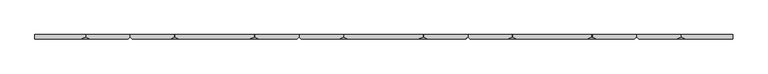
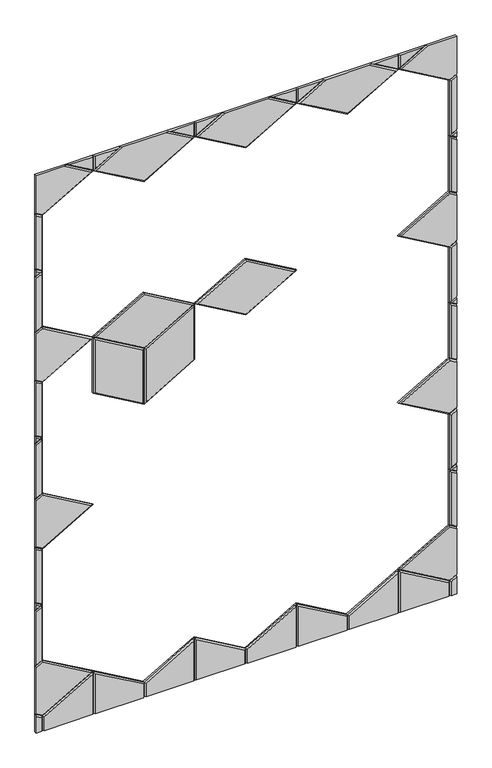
"""IFC4 building model written with IfcOpenShell, lengths in millimetres: proxy geometry, Wall_Cissu 4.3dm."""

from ifc_helpers import new_model, si_unit, origin, place, context, project, spatial, faceted_brep, source, transform, mapped, element, save


def generic_models_ec62adf8(model_context):
    return source(origin(), model_context, "Body", "Brep", [
        faceted_brep([(2254.0, 6.0, 0.0), (2254.0, 6.0, 90.1000923), (2285.1272458, 6.0, 72.1287686), (2285.1272458, 6.0, 0.0), (2254.0, 0.0, 90.1000923), (2285.1272458, 0.0, 72.1287686), (2254.0, -6.0, 83.1718891), (2279.1272458, -6.0, 68.664667), (2254.0, -6.0, 0.0), (2285.1272458, 0.0, 0.0), (2279.1272458, -6.0, 0.0)], [[[0, 1, 2, 3]], [[4, 5, 2, 1]], [[6, 7, 5, 4]], [[0, 8, 6, 4, 1]], [[9, 3, 2, 5]], [[8, 10, 7, 6]], [[10, 9, 5, 7]], [[8, 0, 3, 9, 10]]]),
        faceted_brep([(4254.0, 6.0, 0.0), (4220.8672284, 6.0, 0.0), (4220.8672284, 6.0, 72.1287686), (4254.0, 6.0, 91.2579832), (4254.0, 0.0, 91.2579832), (4220.8672284, 0.0, 72.1287686), (4254.0, -6.0, 84.32978), (4226.8672284, -6.0, 68.664667), (4254.0, -6.0, 0.0), (4226.8672284, -6.0, 0.0), (4220.8672284, 0.0, 0.0)], [[[0, 1, 2, 3]], [[4, 3, 2, 5]], [[6, 4, 5, 7]], [[8, 9, 10, 1, 0]], [[10, 5, 2, 1]], [[8, 6, 7, 9]], [[9, 7, 5, 10]], [[0, 3, 4, 6, 8]]]),
        faceted_brep([(2527.0947436, 0.0, 211.8287686), (2769.0622415, 0.0, 72.1287686), (2769.0622415, 6.0, 72.1287686), (2527.0947436, 6.0, 211.8287686), (2533.0947436, -6.0, 201.4364637), (2763.0622415, -6.0, 68.664667), (2527.0947436, 6.0, 0.0), (2769.0622415, 6.0, 0.0), (2769.0622415, 0.0, 0.0), (2527.0947436, 0.0, 0.0), (2533.0947436, -6.0, 0.0), (2763.0622415, -6.0, 0.0)], [[[0, 1, 2, 3]], [[0, 4, 5, 1]], [[6, 3, 2, 7]], [[8, 7, 2, 1]], [[6, 9, 0, 3]], [[10, 11, 5, 4]], [[11, 8, 1, 5]], [[9, 10, 4, 0]], [[6, 7, 8, 11, 10, 9]]]),
        faceted_brep([(2527.0947436, 0.0, 211.8287686), (2527.0947436, 6.0, 211.8287686), (2285.1272458, 6.0, 72.1287686), (2285.1272458, 0.0, 72.1287686), (2291.1272458, -6.0, 68.664667), (2521.0947436, -6.0, 201.4364637), (2527.0947436, 6.0, 0.0), (2285.1272458, 6.0, 0.0), (2285.1272458, 0.0, 0.0), (2527.0947436, 0.0, 0.0), (2521.0947436, -6.0, 0.0), (2291.1272458, -6.0, 0.0)], [[[0, 1, 2, 3]], [[0, 3, 4, 5]], [[6, 7, 2, 1]], [[8, 3, 2, 7]], [[6, 1, 0, 9]], [[10, 5, 4, 11]], [[11, 4, 3, 8]], [[9, 0, 5, 10]], [[6, 9, 10, 11, 8, 7]]]),
        faceted_brep([(3011.0297393, 0.0, 211.8287686), (3011.0297393, 6.0, 211.8287686), (2769.0622415, 6.0, 72.1287686), (2769.0622415, 0.0, 72.1287686), (2775.0622415, -6.0, 68.664667), (3005.0297393, -6.0, 201.4364637), (3011.0297393, 6.0, 0.0), (2769.0622415, 6.0, 0.0), (2769.0622415, 0.0, 0.0), (3011.0297393, 0.0, 0.0), (3005.0297393, -6.0, 0.0), (2775.0622415, -6.0, 0.0)], [[[0, 1, 2, 3]], [[0, 3, 4, 5]], [[6, 7, 2, 1]], [[8, 3, 2, 7]], [[6, 1, 0, 9]], [[10, 5, 4, 11]], [[11, 4, 3, 8]], [[9, 0, 5, 10]], [[6, 9, 10, 11, 8, 7]]]),
        faceted_brep([(3011.0297393, 0.0, 211.8287686), (3252.9972371, 0.0, 72.1287686), (3252.9972371, 6.0, 72.1287686), (3011.0297393, 6.0, 211.8287686), (3017.0297393, -6.0, 201.4364637), (3246.9972371, -6.0, 68.664667), (3011.0297393, 6.0, 0.0), (3252.9972371, 6.0, 0.0), (3252.9972371, 0.0, 0.0), (3011.0297393, 0.0, 0.0), (3017.0297393, -6.0, 0.0), (3246.9972371, -6.0, 0.0)], [[[0, 1, 2, 3]], [[0, 4, 5, 1]], [[6, 3, 2, 7]], [[8, 7, 2, 1]], [[6, 9, 0, 3]], [[10, 11, 5, 4]], [[11, 8, 1, 5]], [[9, 10, 4, 0]], [[6, 7, 8, 11, 10, 9]]]),
        faceted_brep([(3978.8997305, 0.0, 211.8287686), (3978.8997305, 6.0, 211.8287686), (3736.9322327, 6.0, 72.1287686), (3736.9322327, 0.0, 72.1287686), (3742.9322327, -6.0, 68.664667), (3972.8997305, -6.0, 201.4364637), (3978.8997305, 6.0, 0.0), (3736.9322327, 6.0, 0.0), (3736.9322327, 0.0, 0.0), (3978.8997305, 0.0, 0.0), (3972.8997305, -6.0, 0.0), (3742.9322327, -6.0, 0.0)], [[[0, 1, 2, 3]], [[0, 3, 4, 5]], [[6, 7, 2, 1]], [[8, 3, 2, 7]], [[6, 1, 0, 9]], [[10, 5, 4, 11]], [[11, 4, 3, 8]], [[9, 0, 5, 10]], [[6, 9, 10, 11, 8, 7]]]),
        faceted_brep([(3978.8997305, 0.0, 211.8287686), (4220.8672284, 0.0, 72.1287686), (4220.8672284, 6.0, 72.1287686), (3978.8997305, 6.0, 211.8287686), (3984.8997305, -6.0, 201.4364637), (4214.8672284, -6.0, 68.664667), (3978.8997305, 6.0, 0.0), (4220.8672284, 6.0, 0.0), (4220.8672284, 0.0, 0.0), (3978.8997305, 0.0, 0.0), (3984.8997305, -6.0, 0.0), (4214.8672284, -6.0, 0.0)], [[[0, 1, 2, 3]], [[0, 4, 5, 1]], [[6, 3, 2, 7]], [[8, 7, 2, 1]], [[6, 9, 0, 3]], [[10, 11, 5, 4]], [[11, 8, 1, 5]], [[9, 10, 4, 0]], [[6, 7, 8, 11, 10, 9]]]),
        faceted_brep([(3494.9647349, 0.0, 211.8287686), (3736.9322327, 0.0, 72.1287686), (3736.9322327, 6.0, 72.1287686), (3494.9647349, 6.0, 211.8287686), (3500.9647349, -6.0, 201.4364637), (3730.9322327, -6.0, 68.664667), (3494.9647349, 6.0, 0.0), (3736.9322327, 6.0, 0.0), (3736.9322327, 0.0, 0.0), (3494.9647349, 0.0, 0.0), (3500.9647349, -6.0, 0.0), (3730.9322327, -6.0, 0.0)], [[[0, 1, 2, 3]], [[0, 4, 5, 1]], [[6, 3, 2, 7]], [[8, 7, 2, 1]], [[6, 9, 0, 3]], [[10, 11, 5, 4]], [[11, 8, 1, 5]], [[9, 10, 4, 0]], [[6, 7, 8, 11, 10, 9]]]),
        faceted_brep([(3494.9647349, 0.0, 211.8287686), (3494.9647349, 6.0, 211.8287686), (3252.9972371, 6.0, 72.1287686), (3252.9972371, 0.0, 72.1287686), (3258.9972371, -6.0, 68.664667), (3488.9647349, -6.0, 201.4364637), (3494.9647349, 6.0, 0.0), (3252.9972371, 6.0, 0.0), (3252.9972371, 0.0, 0.0), (3494.9647349, 0.0, 0.0), (3488.9647349, -6.0, 0.0), (3258.9972371, -6.0, 0.0)], [[[0, 1, 2, 3]], [[0, 3, 4, 5]], [[6, 7, 2, 1]], [[8, 3, 2, 7]], [[6, 1, 0, 9]], [[10, 5, 4, 11]], [[11, 4, 3, 8]], [[9, 0, 5, 10]], [[6, 9, 10, 11, 8, 7]]]),
        faceted_brep([(4254.0, 6.0, 332.3995539), (4254.0, 6.0, 91.2579832), (4220.8672284, 6.0, 72.1287686), (3978.8997305, 6.0, 211.8287686), (4220.8672284, 6.0, 351.5287686), (4220.8672284, 0.0, 72.1287686), (3978.8997305, 0.0, 211.8287686), (4220.8672284, 0.0, 351.5287686), (4254.0, 0.0, 332.3995539), (4254.0, 0.0, 91.2579832), (4254.0, -6.0, 325.4713507), (4220.8672284, -6.0, 344.6005653), (3990.8997305, -6.0, 211.8287686), (4220.8672284, -6.0, 79.0569718), (4254.0, -6.0, 98.1861864)], [[[0, 1, 2, 3, 4]], [[5, 6, 3, 2]], [[6, 7, 4, 3]], [[0, 4, 7, 8]], [[9, 5, 2, 1]], [[10, 11, 12, 13, 14]], [[5, 13, 12, 6]], [[6, 12, 11, 7]], [[8, 7, 11, 10]], [[14, 13, 5, 9]], [[0, 8, 10, 14, 9, 1]]]),
        faceted_brep([(4254.0, 6.0, 611.7995539), (4254.0, 6.0, 332.3995539), (4220.8672284, 6.0, 351.5287686), (4220.8672284, 6.0, 630.9287686), (4254.0, 0.0, 332.3995539), (4220.8672284, 0.0, 351.5287686), (4220.8672284, 0.0, 630.9287686), (4254.0, 0.0, 611.7995539), (4254.0, -6.0, 604.8713507), (4226.8672284, -6.0, 620.5364637), (4226.8672284, -6.0, 354.9928702), (4254.0, -6.0, 339.3277572)], [[[0, 1, 2, 3]], [[4, 5, 2, 1]], [[5, 6, 3, 2]], [[0, 3, 6, 7]], [[8, 9, 10, 11]], [[11, 10, 5, 4]], [[5, 10, 9, 6]], [[7, 6, 9, 8]], [[0, 7, 8, 11, 4, 1]]]),
        faceted_brep([(2254.0, 6.0, 90.1000923), (2254.0, 6.0, 333.5574448), (2285.1272458, 6.0, 351.5287686), (2527.0947436, 6.0, 211.8287686), (2285.1272458, 6.0, 72.1287686), (2285.1272458, 0.0, 72.1287686), (2254.0, 0.0, 90.1000923), (2254.0, 0.0, 333.5574448), (2285.1272458, 0.0, 351.5287686), (2527.0947436, 0.0, 211.8287686), (2254.0, -6.0, 97.0282956), (2285.1272458, -6.0, 79.0569718), (2515.0947436, -6.0, 211.8287686), (2285.1272458, -6.0, 344.6005653), (2254.0, -6.0, 326.6292416)], [[[0, 1, 2, 3, 4]], [[0, 4, 5, 6]], [[7, 8, 2, 1]], [[8, 9, 3, 2]], [[9, 5, 4, 3]], [[10, 11, 12, 13, 14]], [[6, 5, 11, 10]], [[14, 13, 8, 7]], [[8, 13, 12, 9]], [[9, 12, 11, 5]], [[0, 6, 10, 14, 7, 1]]]),
        faceted_brep([(2254.0, 6.0, 612.9574448), (2285.1272458, 6.0, 630.9287686), (2285.1272458, 6.0, 351.5287686), (2254.0, 6.0, 333.5574448), (2254.0, 0.0, 333.5574448), (2285.1272458, 0.0, 351.5287686), (2285.1272458, 0.0, 630.9287686), (2254.0, 0.0, 612.9574448), (2254.0, -6.0, 606.0292416), (2254.0, -6.0, 340.485648), (2279.1272458, -6.0, 354.9928702), (2279.1272458, -6.0, 620.5364637)], [[[0, 1, 2, 3]], [[4, 3, 2, 5]], [[5, 2, 1, 6]], [[0, 7, 6, 1]], [[8, 9, 10, 11]], [[9, 4, 5, 10]], [[5, 6, 11, 10]], [[7, 8, 11, 6]], [[0, 3, 4, 9, 8, 7]]]),
        faceted_brep([(2254.0, 6.037064, 612.914647), (2254.0, 6.037064, 648.8144967), (2285.0901818, 6.037064, 630.8645718), (2254.0, 0.037064, 648.8144967), (2285.0901818, 0.037064, 630.8645718), (2254.0, 0.037064, 612.914647), (2254.0, -5.962936, 619.8428502), (2273.0901818, -5.962936, 630.8645718), (2254.0, -5.962936, 641.8862934)], [[[0, 1, 2]], [[3, 4, 2, 1]], [[0, 2, 4, 5]], [[6, 7, 8]], [[8, 7, 4, 3]], [[5, 4, 7, 6]], [[0, 5, 6, 8, 3, 1]]]),
        faceted_brep([(2254.0, 6.037064, 648.8144967), (2254.0, 6.037064, 928.2144967), (2285.0901818, 6.037064, 910.2645718), (2285.0901818, 6.037064, 630.8645718), (2285.0901818, 0.037064, 910.2645718), (2285.0901818, 0.037064, 630.8645718), (2254.0, 0.037064, 648.8144967), (2254.0, 0.037064, 928.2144967), (2254.0, -5.962936, 655.7426999), (2279.0901818, -5.962936, 641.2568767), (2279.0901818, -5.962936, 906.8004702), (2254.0, -5.962936, 921.2862934)], [[[0, 1, 2, 3]], [[4, 5, 3, 2]], [[0, 3, 5, 6]], [[7, 4, 2, 1]], [[8, 9, 10, 11]], [[4, 10, 9, 5]], [[6, 5, 9, 8]], [[11, 10, 4, 7]], [[0, 6, 8, 11, 7, 1]]]),
        faceted_brep([(4254.0, 6.037064, 611.7139583), (4220.8301644, 6.037064, 630.8645718), (4254.0, 6.037064, 650.0151854), (4254.0, 0.037064, 650.0151854), (4220.8301644, 0.037064, 630.8645718), (4254.0, 0.037064, 611.7139583), (4254.0, -5.962936, 618.6421615), (4254.0, -5.962936, 643.0869821), (4232.8301644, -5.962936, 630.8645718)], [[[0, 1, 2]], [[3, 2, 1, 4]], [[0, 5, 4, 1]], [[6, 7, 8]], [[7, 3, 4, 8]], [[5, 6, 8, 4]], [[0, 2, 3, 7, 6, 5]]]),
        faceted_brep([(4254.0, 6.037064, 650.0151854), (4220.8301644, 6.037064, 630.8645718), (4220.8301644, 6.037064, 910.2645718), (4254.0, 6.037064, 929.4151854), (4220.8301644, 0.037064, 910.2645718), (4220.8301644, 0.037064, 630.8645718), (4254.0, 0.037064, 650.0151854), (4254.0, 0.037064, 929.4151854), (4254.0, -5.962936, 656.9433886), (4254.0, -5.962936, 922.4869821), (4226.8301644, -5.962936, 906.8004702), (4226.8301644, -5.962936, 641.2568767)], [[[0, 1, 2, 3]], [[4, 2, 1, 5]], [[0, 6, 5, 1]], [[7, 3, 2, 4]], [[8, 9, 10, 11]], [[4, 5, 11, 10]], [[6, 8, 11, 5]], [[9, 7, 4, 10]], [[0, 3, 7, 9, 8, 6]]]),
        faceted_brep([(4254.0, 6.037064, 1170.5139583), (4254.0, 6.037064, 929.4151854), (4220.8301644, 6.037064, 910.2645718), (3978.8626665, 6.037064, 1049.9645718), (4220.8301644, 6.037064, 1189.6645718), (4220.8301644, 0.037064, 910.2645718), (3978.8626665, 0.037064, 1049.9645718), (4220.8301644, 0.037064, 1189.6645718), (4254.0, 0.037064, 1170.5139583), (4254.0, 0.037064, 929.4151854), (4254.0, -5.962936, 1163.5857551), (4220.8301644, -5.962936, 1182.7363686), (3990.8626665, -5.962936, 1049.9645718), (4220.8301644, -5.962936, 917.1927751), (4254.0, -5.962936, 936.3433886)], [[[0, 1, 2, 3, 4]], [[5, 6, 3, 2]], [[6, 7, 4, 3]], [[0, 4, 7, 8]], [[9, 5, 2, 1]], [[10, 11, 12, 13, 14]], [[5, 13, 12, 6]], [[6, 12, 11, 7]], [[8, 7, 11, 10]], [[14, 13, 5, 9]], [[0, 8, 10, 14, 9, 1]]]),
        faceted_brep([(4254.0, 6.037064, 1449.9139583), (4254.0, 6.037064, 1170.5139583), (4220.8301644, 6.037064, 1189.6645718), (4220.8301644, 6.037064, 1469.0645718), (4254.0, 0.037064, 1170.5139583), (4220.8301644, 0.037064, 1189.6645718), (4220.8301644, 0.037064, 1469.0645718), (4254.0, 0.037064, 1449.9139583), (4254.0, -5.962936, 1442.9857551), (4226.8301644, -5.962936, 1458.672267), (4226.8301644, -5.962936, 1193.1286734), (4254.0, -5.962936, 1177.4421615)], [[[0, 1, 2, 3]], [[4, 5, 2, 1]], [[5, 6, 3, 2]], [[0, 3, 6, 7]], [[8, 9, 10, 11]], [[11, 10, 5, 4]], [[5, 10, 9, 6]], [[7, 6, 9, 8]], [[0, 7, 8, 11, 4, 1]]]),
        faceted_brep([(2254.0, 6.037064, 928.2144967), (2254.0, 6.037064, 1171.714647), (2285.0901818, 6.037064, 1189.6645718), (2527.0576796, 6.037064, 1049.9645718), (2285.0901818, 6.037064, 910.2645718), (2285.0901818, 0.037064, 910.2645718), (2254.0, 0.037064, 928.2144967), (2254.0, 0.037064, 1171.714647), (2285.0901818, 0.037064, 1189.6645718), (2527.0576796, 0.037064, 1049.9645718), (2254.0, -5.962936, 935.1426999), (2285.0901818, -5.962936, 917.1927751), (2515.0576796, -5.962936, 1049.9645718), (2285.0901818, -5.962936, 1182.7363686), (2254.0, -5.962936, 1164.7864438)], [[[0, 1, 2, 3, 4]], [[0, 4, 5, 6]], [[7, 8, 2, 1]], [[8, 9, 3, 2]], [[9, 5, 4, 3]], [[10, 11, 12, 13, 14]], [[6, 5, 11, 10]], [[14, 13, 8, 7]], [[8, 13, 12, 9]], [[9, 12, 11, 5]], [[0, 6, 10, 14, 7, 1]]]),
        faceted_brep([(2254.0, 6.037064, 1451.114647), (2285.0901818, 6.037064, 1469.0645718), (2285.0901818, 6.037064, 1189.6645718), (2254.0, 6.037064, 1171.714647), (2254.0, 0.037064, 1171.714647), (2285.0901818, 0.037064, 1189.6645718), (2285.0901818, 0.037064, 1469.0645718), (2254.0, 0.037064, 1451.114647), (2254.0, -5.962936, 1444.1864438), (2254.0, -5.962936, 1178.6428502), (2279.0901818, -5.962936, 1193.1286734), (2279.0901818, -5.962936, 1458.672267)], [[[0, 1, 2, 3]], [[4, 3, 2, 5]], [[5, 2, 1, 6]], [[0, 7, 6, 1]], [[8, 9, 10, 11]], [[9, 4, 5, 10]], [[5, 6, 11, 10]], [[7, 8, 11, 6]], [[0, 3, 4, 9, 8, 7]]]),
        faceted_brep([(2254.0, 6.037064, 1451.114647), (2254.0, 6.037064, 1487.0144967), (2285.0901818, 6.037064, 1469.0645718), (2254.0, 0.037064, 1487.0144967), (2285.0901818, 0.037064, 1469.0645718), (2254.0, 0.037064, 1451.114647), (2254.0, -5.962936, 1458.0428502), (2273.0901818, -5.962936, 1469.0645718), (2254.0, -5.962936, 1480.0862934)], [[[0, 1, 2]], [[3, 4, 2, 1]], [[0, 2, 4, 5]], [[6, 7, 8]], [[8, 7, 4, 3]], [[5, 4, 7, 6]], [[0, 5, 6, 8, 3, 1]]]),
        faceted_brep([(2254.0, 6.037064, 1487.0144967), (2254.0, 6.037064, 1766.4144967), (2285.0901818, 6.037064, 1748.4645718), (2285.0901818, 6.037064, 1469.0645718), (2285.0901818, 0.037064, 1748.4645718), (2285.0901818, 0.037064, 1469.0645718), (2254.0, 0.037064, 1487.0144967), (2254.0, 0.037064, 1766.4144967), (2254.0, -5.962936, 1493.9426999), (2279.0901818, -5.962936, 1479.4568767), (2279.0901818, -5.962936, 1745.0004702), (2254.0, -5.962936, 1759.4862934)], [[[0, 1, 2, 3]], [[4, 5, 3, 2]], [[0, 3, 5, 6]], [[7, 4, 2, 1]], [[8, 9, 10, 11]], [[4, 10, 9, 5]], [[6, 5, 9, 8]], [[11, 10, 4, 7]], [[0, 6, 8, 11, 7, 1]]]),
        faceted_brep([(4254.0, 6.037064, 1449.9139583), (4220.8301644, 6.037064, 1469.0645718), (4254.0, 6.037064, 1488.2151854), (4254.0, 0.037064, 1488.2151854), (4220.8301644, 0.037064, 1469.0645718), (4254.0, 0.037064, 1449.9139583), (4254.0, -5.962936, 1456.8421615), (4254.0, -5.962936, 1481.2869821), (4232.8301644, -5.962936, 1469.0645718)], [[[0, 1, 2]], [[3, 2, 1, 4]], [[0, 5, 4, 1]], [[6, 7, 8]], [[7, 3, 4, 8]], [[5, 6, 8, 4]], [[0, 2, 3, 7, 6, 5]]]),
        faceted_brep([(4254.0, 6.037064, 1488.2151854), (4220.8301644, 6.037064, 1469.0645718), (4220.8301644, 6.037064, 1748.4645718), (4254.0, 6.037064, 1767.6151854), (4220.8301644, 0.037064, 1748.4645718), (4220.8301644, 0.037064, 1469.0645718), (4254.0, 0.037064, 1488.2151854), (4254.0, 0.037064, 1767.6151854), (4254.0, -5.962936, 1495.1433886), (4254.0, -5.962936, 1760.6869821), (4226.8301644, -5.962936, 1745.0004702), (4226.8301644, -5.962936, 1479.4568767)], [[[0, 1, 2, 3]], [[4, 2, 1, 5]], [[0, 6, 5, 1]], [[7, 3, 2, 4]], [[8, 9, 10, 11]], [[4, 5, 11, 10]], [[6, 8, 11, 5]], [[9, 7, 4, 10]], [[0, 3, 7, 9, 8, 6]]]),
        faceted_brep([(4254.0, 6.037064, 2008.7139583), (4254.0, 6.037064, 1767.6151854), (4220.8301644, 6.037064, 1748.4645718), (3978.8626665, 6.037064, 1888.1645718), (4220.8301644, 6.037064, 2027.8645718), (4220.8301644, 0.037064, 1748.4645718), (3978.8626665, 0.037064, 1888.1645718), (4220.8301644, 0.037064, 2027.8645718), (4254.0, 0.037064, 2008.7139583), (4254.0, 0.037064, 1767.6151854), (4254.0, -5.962936, 2001.7857551), (4220.8301644, -5.962936, 2020.9363686), (3990.8626665, -5.962936, 1888.1645718), (4220.8301644, -5.962936, 1755.3927751), (4254.0, -5.962936, 1774.5433886)], [[[0, 1, 2, 3, 4]], [[5, 6, 3, 2]], [[6, 7, 4, 3]], [[0, 4, 7, 8]], [[9, 5, 2, 1]], [[10, 11, 12, 13, 14]], [[5, 13, 12, 6]], [[6, 12, 11, 7]], [[8, 7, 11, 10]], [[14, 13, 5, 9]], [[0, 8, 10, 14, 9, 1]]]),
        faceted_brep([(4254.0, 6.037064, 2288.1139583), (4254.0, 6.037064, 2008.7139583), (4220.8301644, 6.037064, 2027.8645718), (4220.8301644, 6.037064, 2307.2645718), (4254.0, 0.037064, 2008.7139583), (4220.8301644, 0.037064, 2027.8645718), (4220.8301644, 0.037064, 2307.2645718), (4254.0, 0.037064, 2288.1139583), (4254.0, -5.962936, 2281.1857551), (4226.8301644, -5.962936, 2296.872267), (4226.8301644, -5.962936, 2031.3286734), (4254.0, -5.962936, 2015.6421615)], [[[0, 1, 2, 3]], [[4, 5, 2, 1]], [[5, 6, 3, 2]], [[0, 3, 6, 7]], [[8, 9, 10, 11]], [[11, 10, 5, 4]], [[5, 10, 9, 6]], [[7, 6, 9, 8]], [[0, 7, 8, 11, 4, 1]]]),
        faceted_brep([(2254.0, 6.037064, 1766.4144967), (2254.0, 6.037064, 2009.914647), (2285.0901818, 6.037064, 2027.8645718), (2527.0576796, 6.037064, 1888.1645718), (2285.0901818, 6.037064, 1748.4645718), (2285.0901818, 0.037064, 1748.4645718), (2254.0, 0.037064, 1766.4144967), (2254.0, 0.037064, 2009.914647), (2285.0901818, 0.037064, 2027.8645718), (2527.0576796, 0.037064, 1888.1645718), (2254.0, -5.962936, 1773.3426999), (2285.0901818, -5.962936, 1755.3927751), (2515.0576796, -5.962936, 1888.1645718), (2285.0901818, -5.962936, 2020.9363686), (2254.0, -5.962936, 2002.9864438)], [[[0, 1, 2, 3, 4]], [[0, 4, 5, 6]], [[7, 8, 2, 1]], [[8, 9, 3, 2]], [[9, 5, 4, 3]], [[10, 11, 12, 13, 14]], [[6, 5, 11, 10]], [[14, 13, 8, 7]], [[8, 13, 12, 9]], [[9, 12, 11, 5]], [[0, 6, 10, 14, 7, 1]]]),
        faceted_brep([(2254.0, 6.037064, 2289.314647), (2285.0901818, 6.037064, 2307.2645718), (2285.0901818, 6.037064, 2027.8645718), (2254.0, 6.037064, 2009.914647), (2254.0, 0.037064, 2009.914647), (2285.0901818, 0.037064, 2027.8645718), (2285.0901818, 0.037064, 2307.2645718), (2254.0, 0.037064, 2289.314647), (2254.0, -5.962936, 2282.3864438), (2254.0, -5.962936, 2016.8428502), (2279.0901818, -5.962936, 2031.3286734), (2279.0901818, -5.962936, 2296.872267)], [[[0, 1, 2, 3]], [[4, 3, 2, 5]], [[5, 2, 1, 6]], [[0, 7, 6, 1]], [[8, 9, 10, 11]], [[9, 4, 5, 10]], [[5, 6, 11, 10]], [[7, 8, 11, 6]], [[0, 3, 4, 9, 8, 7]]]),
        faceted_brep([(2254.0, 6.074128, 2289.2718492), (2254.0, 6.074128, 2325.128901), (2285.0531178, 6.074128, 2307.2003751), (2254.0, 0.074128, 2325.128901), (2285.0531178, 0.074128, 2307.2003751), (2254.0, 0.074128, 2289.2718492), (2254.0, -5.925872, 2296.2000524), (2273.0531178, -5.925872, 2307.2003751), (2254.0, -5.925872, 2318.2006978)], [[[0, 1, 2]], [[3, 4, 2, 1]], [[0, 2, 4, 5]], [[6, 7, 8]], [[8, 7, 4, 3]], [[5, 4, 7, 6]], [[0, 5, 6, 8, 3, 1]]]),
        faceted_brep([(2254.0, 6.074128, 2325.128901), (2254.0, 6.074128, 2604.528901), (2285.0531178, 6.074128, 2586.6003751), (2285.0531178, 6.074128, 2307.2003751), (2285.0531178, 0.074128, 2586.6003751), (2285.0531178, 0.074128, 2307.2003751), (2254.0, 0.074128, 2325.128901), (2254.0, 0.074128, 2604.528901), (2254.0, -5.925872, 2332.0571042), (2279.0531178, -5.925872, 2317.5926799), (2279.0531178, -5.925872, 2583.1362735), (2254.0, -5.925872, 2597.6006978)], [[[0, 1, 2, 3]], [[4, 5, 3, 2]], [[0, 3, 5, 6]], [[7, 4, 2, 1]], [[8, 9, 10, 11]], [[4, 10, 9, 5]], [[6, 5, 9, 8]], [[11, 10, 4, 7]], [[0, 6, 8, 11, 7, 1]]]),
        faceted_brep([(4254.0, 6.074128, 2288.0283626), (4220.7931003, 6.074128, 2307.2003751), (4254.0, 6.074128, 2326.3723875), (4254.0, 0.074128, 2326.3723875), (4220.7931003, 0.074128, 2307.2003751), (4254.0, 0.074128, 2288.0283626), (4254.0, -5.925872, 2294.9565659), (4254.0, -5.925872, 2319.4441843), (4232.7931003, -5.925872, 2307.2003751)], [[[0, 1, 2]], [[3, 2, 1, 4]], [[0, 5, 4, 1]], [[6, 7, 8]], [[7, 3, 4, 8]], [[5, 6, 8, 4]], [[0, 2, 3, 7, 6, 5]]]),
        faceted_brep([(4254.0, 6.074128, 2326.3723875), (4220.7931003, 6.074128, 2307.2003751), (4220.7931003, 6.074128, 2586.6003751), (4254.0, 6.074128, 2605.7723875), (4220.7931003, 0.074128, 2586.6003751), (4220.7931003, 0.074128, 2307.2003751), (4254.0, 0.074128, 2326.3723875), (4254.0, 0.074128, 2605.7723875), (4254.0, -5.925872, 2333.3005908), (4254.0, -5.925872, 2598.8441843), (4226.7931003, -5.925872, 2583.1362735), (4226.7931003, -5.925872, 2317.5926799)], [[[0, 1, 2, 3]], [[4, 2, 1, 5]], [[0, 6, 5, 1]], [[7, 3, 2, 4]], [[8, 9, 10, 11]], [[4, 5, 11, 10]], [[6, 8, 11, 5]], [[9, 7, 4, 10]], [[0, 3, 7, 9, 8, 6]]]),
        faceted_brep([(2768.9881134, 0.074128, 2586.6003751), (2768.9881134, 6.074128, 2586.6003751), (3010.9556113, 6.074128, 2726.3003751), (3010.9556113, 0.074128, 2726.3003751), (2527.0206156, 0.074128, 2726.3003751), (2527.0206156, 6.074128, 2726.3003751), (2998.9556113, -5.925872, 2726.3003751), (2768.9881134, -5.925872, 2593.5285783), (2539.0206156, -5.925872, 2726.3003751), (2654.6721105, 6.074128, 2800.0), (2883.3041164, 6.074128, 2800.0), (2883.3041164, 0.074128, 2800.0), (2654.6721105, 0.074128, 2800.0), (2666.6721105, -5.925872, 2800.0), (2871.3041164, -5.925872, 2800.0)], [[[0, 1, 2, 3]], [[4, 5, 1, 0]], [[0, 3, 6, 7]], [[4, 0, 7, 8]], [[9, 10, 2, 1, 5]], [[11, 3, 2, 10]], [[9, 5, 4, 12]], [[13, 8, 7, 6, 14]], [[14, 6, 3, 11]], [[12, 4, 8, 13]], [[9, 12, 13, 14, 11, 10]]]),
        faceted_brep([(3010.9556113, 6.074128, 2800.0), (3010.9556113, 6.074128, 2726.3003751), (2883.3041164, 6.074128, 2800.0), (3010.9556113, 0.074128, 2800.0), (3010.9556113, 0.074128, 2726.3003751), (2883.3041164, 0.074128, 2800.0), (3004.9556113, -5.925872, 2800.0), (2895.3041164, -5.925872, 2800.0), (3004.9556113, -5.925872, 2736.6926799)], [[[0, 1, 2]], [[0, 3, 4, 1]], [[5, 2, 1, 4]], [[6, 7, 8]], [[3, 6, 8, 4]], [[7, 5, 4, 8]], [[0, 2, 5, 7, 6, 3]]]),
        faceted_brep([(2527.0206156, 6.074128, 2800.0), (2654.6721105, 6.074128, 2800.0), (2527.0206156, 6.074128, 2726.3003751), (2527.0206156, 0.074128, 2726.3003751), (2527.0206156, 0.074128, 2800.0), (2654.6721105, 0.074128, 2800.0), (2533.0206156, -5.925872, 2800.0), (2533.0206156, -5.925872, 2736.6926799), (2642.6721105, -5.925872, 2800.0)], [[[0, 1, 2]], [[0, 2, 3, 4]], [[5, 3, 2, 1]], [[6, 7, 8]], [[4, 3, 7, 6]], [[8, 7, 3, 5]], [[0, 4, 6, 8, 5, 1]]]),
        faceted_brep([(3010.9556113, 6.074128, 2800.0), (3138.6071061, 6.074128, 2800.0), (3010.9556113, 6.074128, 2726.3003751), (3010.9556113, 0.074128, 2726.3003751), (3010.9556113, 0.074128, 2800.0), (3138.6071061, 0.074128, 2800.0), (3016.9556113, -5.925872, 2800.0), (3016.9556113, -5.925872, 2736.6926799), (3126.6071061, -5.925872, 2800.0)], [[[0, 1, 2]], [[0, 2, 3, 4]], [[5, 3, 2, 1]], [[6, 7, 8]], [[4, 3, 7, 6]], [[8, 7, 3, 5]], [[0, 4, 6, 8, 5, 1]]]),
        faceted_brep([(3252.9231091, 0.074128, 2586.6003751), (3010.9556113, 0.074128, 2726.3003751), (3010.9556113, 6.074128, 2726.3003751), (3252.9231091, 6.074128, 2586.6003751), (3494.8906069, 0.074128, 2726.3003751), (3494.8906069, 6.074128, 2726.3003751), (3252.9231091, -5.925872, 2593.5285783), (3022.9556113, -5.925872, 2726.3003751), (3482.8906069, -5.925872, 2726.3003751), (3367.239112, 6.074128, 2800.0), (3138.6071061, 6.074128, 2800.0), (3138.6071061, 0.074128, 2800.0), (3367.239112, 0.074128, 2800.0), (3355.239112, -5.925872, 2800.0), (3150.6071061, -5.925872, 2800.0)], [[[0, 1, 2, 3]], [[4, 0, 3, 5]], [[0, 6, 7, 1]], [[4, 8, 6, 0]], [[9, 5, 3, 2, 10]], [[11, 10, 2, 1]], [[9, 12, 4, 5]], [[13, 14, 7, 6, 8]], [[14, 11, 1, 7]], [[12, 13, 8, 4]], [[9, 10, 11, 14, 13, 12]]]),
        faceted_brep([(3494.8906069, 6.074128, 2800.0), (3494.8906069, 6.074128, 2726.3003751), (3367.239112, 6.074128, 2800.0), (3494.8906069, 0.074128, 2800.0), (3494.8906069, 0.074128, 2726.3003751), (3367.239112, 0.074128, 2800.0), (3488.8906069, -5.925872, 2800.0), (3379.239112, -5.925872, 2800.0), (3488.8906069, -5.925872, 2736.6926799)], [[[0, 1, 2]], [[0, 3, 4, 1]], [[5, 2, 1, 4]], [[6, 7, 8]], [[3, 6, 8, 4]], [[7, 5, 4, 8]], [[0, 2, 5, 7, 6, 3]]]),
        faceted_brep([(4220.7931003, 0.074128, 2586.6003751), (3978.8256025, 0.074128, 2726.3003751), (3978.8256025, 6.074128, 2726.3003751), (4220.7931003, 6.074128, 2586.6003751), (4254.0, 0.074128, 2605.7723875), (4254.0, 6.074128, 2605.7723875), (4254.0, -5.925872, 2800.0), (4118.4770974, -5.925872, 2800.0), (3990.8256025, -5.925872, 2726.3003751), (4220.7931003, -5.925872, 2593.5285783), (4254.0, -5.925872, 2612.7005908), (4254.0, 6.074128, 2800.0), (4106.4770974, 6.074128, 2800.0), (4106.4770974, 0.074128, 2800.0)], [[[0, 1, 2, 3]], [[4, 0, 3, 5]], [[6, 7, 8, 9, 10]], [[0, 9, 8, 1]], [[10, 9, 0, 4]], [[11, 12, 13, 7, 6]], [[11, 5, 3, 2, 12]], [[13, 12, 2, 1]], [[7, 13, 1, 8]], [[6, 10, 4, 5, 11]]]),
        faceted_brep([(3978.8256025, 6.074128, 2800.0), (4106.4770974, 6.074128, 2800.0), (3978.8256025, 6.074128, 2726.3003751), (3978.8256025, 0.074128, 2726.3003751), (3978.8256025, 0.074128, 2800.0), (4106.4770974, 0.074128, 2800.0), (3984.8256025, -5.925872, 2800.0), (3984.8256025, -5.925872, 2736.6926799), (4094.4770974, -5.925872, 2800.0)], [[[0, 1, 2]], [[0, 2, 3, 4]], [[5, 3, 2, 1]], [[6, 7, 8]], [[4, 3, 7, 6]], [[8, 7, 3, 5]], [[0, 4, 6, 8, 5, 1]]]),
        faceted_brep([(3736.8581047, 0.074128, 2586.6003751), (3736.8581047, 6.074128, 2586.6003751), (3978.8256025, 6.074128, 2726.3003751), (3978.8256025, 0.074128, 2726.3003751), (3494.8906069, 0.074128, 2726.3003751), (3494.8906069, 6.074128, 2726.3003751), (3966.8256025, -5.925872, 2726.3003751), (3736.8581047, -5.925872, 2593.5285783), (3506.8906069, -5.925872, 2726.3003751), (3622.5421018, 6.074128, 2800.0), (3851.1741077, 6.074128, 2800.0), (3851.1741077, 0.074128, 2800.0), (3622.5421018, 0.074128, 2800.0), (3634.5421018, -5.925872, 2800.0), (3839.1741077, -5.925872, 2800.0)], [[[0, 1, 2, 3]], [[4, 5, 1, 0]], [[0, 3, 6, 7]], [[4, 0, 7, 8]], [[9, 10, 2, 1, 5]], [[11, 3, 2, 10]], [[9, 5, 4, 12]], [[13, 8, 7, 6, 14]], [[14, 6, 3, 11]], [[12, 4, 8, 13]], [[9, 12, 13, 14, 11, 10]]]),
        faceted_brep([(3978.8256025, 6.074128, 2800.0), (3978.8256025, 6.074128, 2726.3003751), (3851.1741077, 6.074128, 2800.0), (3978.8256025, 0.074128, 2800.0), (3978.8256025, 0.074128, 2726.3003751), (3851.1741077, 0.074128, 2800.0), (3972.8256025, -5.925872, 2800.0), (3863.1741077, -5.925872, 2800.0), (3972.8256025, -5.925872, 2736.6926799)], [[[0, 1, 2]], [[0, 3, 4, 1]], [[5, 2, 1, 4]], [[6, 7, 8]], [[3, 6, 8, 4]], [[7, 5, 4, 8]], [[0, 2, 5, 7, 6, 3]]]),
        faceted_brep([(3494.8906069, 6.074128, 2800.0), (3622.5421018, 6.074128, 2800.0), (3494.8906069, 6.074128, 2726.3003751), (3494.8906069, 0.074128, 2726.3003751), (3494.8906069, 0.074128, 2800.0), (3622.5421018, 0.074128, 2800.0), (3500.8906069, -5.925872, 2800.0), (3500.8906069, -5.925872, 2736.6926799), (3610.5421018, -5.925872, 2800.0)], [[[0, 1, 2]], [[0, 2, 3, 4]], [[5, 3, 2, 1]], [[6, 7, 8]], [[4, 3, 7, 6]], [[8, 7, 3, 5]], [[0, 4, 6, 8, 5, 1]]]),
        faceted_brep([(2254.0, 6.074128, 2604.528901), (2285.0531178, 6.074128, 2586.6003751), (2285.0531178, 0.074128, 2586.6003751), (2254.0, 0.074128, 2604.528901), (2527.0206156, 0.074128, 2726.3003751), (2527.0206156, 6.074128, 2726.3003751), (2254.0, -5.925872, 2611.4571042), (2285.0531178, -5.925872, 2593.5285783), (2515.0206156, -5.925872, 2726.3003751), (2387.3691208, -5.925872, 2800.0), (2254.0, -5.925872, 2800.0), (2399.3691208, 6.074128, 2800.0), (2254.0, 6.074128, 2800.0), (2399.3691208, 0.074128, 2800.0)], [[[0, 1, 2, 3]], [[4, 2, 1, 5]], [[6, 7, 8, 9, 10]], [[3, 2, 7, 6]], [[4, 8, 7, 2]], [[11, 12, 10, 9, 13]], [[11, 5, 1, 0, 12]], [[11, 13, 4, 5]], [[13, 9, 8, 4]], [[6, 10, 12, 0, 3]]]),
        faceted_brep([(2527.0206156, 6.074128, 2800.0), (2527.0206156, 6.074128, 2726.3003751), (2399.3691208, 6.074128, 2800.0), (2527.0206156, 0.074128, 2800.0), (2527.0206156, 0.074128, 2726.3003751), (2399.3691208, 0.074128, 2800.0), (2521.0206156, -5.925872, 2800.0), (2411.3691208, -5.925872, 2800.0), (2521.0206156, -5.925872, 2736.6926799)], [[[0, 1, 2]], [[0, 3, 4, 1]], [[5, 2, 1, 4]], [[6, 7, 8]], [[3, 6, 8, 4]], [[7, 5, 4, 8]], [[0, 2, 5, 7, 6, 3]]]),
        faceted_brep([(3252.9601731, 6.037064, 1748.4645718), (3010.9926753, 6.037064, 1888.1645718), (3252.9601731, 6.037064, 2027.8645718), (3494.9276709, 6.037064, 1888.1645718), (3252.9601731, 0.037064, 1748.4645718), (3010.9926753, 0.037064, 1888.1645718), (3252.9601731, 0.037064, 2027.8645718), (3494.9276709, 0.037064, 1888.1645718), (3252.9601731, -5.962936, 2020.9363686), (3022.9926753, -5.962936, 1888.1645718), (3252.9601731, -5.962936, 1755.3927751), (3482.9276709, -5.962936, 1888.1645718)], [[[0, 1, 2, 3]], [[4, 5, 1, 0]], [[5, 6, 2, 1]], [[6, 7, 3, 2]], [[7, 4, 0, 3]], [[8, 9, 10, 11]], [[4, 10, 9, 5]], [[5, 9, 8, 6]], [[6, 8, 11, 7]], [[7, 11, 10, 4]]]),
        faceted_brep([(2769.0251774, 6.037064, 1748.4645718), (2769.0251774, 6.037064, 1469.0645718), (2527.0576796, 6.037064, 1608.7645718), (2527.0576796, 6.037064, 1888.1645718), (2769.0251774, 0.037064, 1748.4645718), (2769.0251774, 0.037064, 1469.0645718), (2527.0576796, 0.037064, 1608.7645718), (2527.0576796, 0.037064, 1888.1645718), (2533.0576796, -5.962936, 1612.2286734), (2763.0251774, -5.962936, 1479.4568767), (2763.0251774, -5.962936, 1745.0004702), (2533.0576796, -5.962936, 1877.772267)], [[[0, 1, 2, 3]], [[4, 5, 1, 0]], [[5, 6, 2, 1]], [[6, 7, 3, 2]], [[7, 4, 0, 3]], [[8, 9, 10, 11]], [[4, 10, 9, 5]], [[5, 9, 8, 6]], [[6, 8, 11, 7]], [[7, 11, 10, 4]]]),
        faceted_brep([(2769.0251774, 6.037064, 1748.4645718), (3010.9926753, 6.037064, 1888.1645718), (3010.9926753, 6.037064, 1608.7645718), (2769.0251774, 6.037064, 1469.0645718), (2769.0251774, 0.037064, 1748.4645718), (2769.0251774, 0.037064, 1469.0645718), (3010.9926753, 0.037064, 1608.7645718), (3010.9926753, 0.037064, 1888.1645718), (3004.9926753, -5.962936, 1612.2286734), (3004.9926753, -5.962936, 1877.772267), (2775.0251774, -5.962936, 1745.0004702), (2775.0251774, -5.962936, 1479.4568767)], [[[0, 1, 2, 3]], [[4, 0, 3, 5]], [[5, 3, 2, 6]], [[6, 2, 1, 7]], [[7, 1, 0, 4]], [[8, 9, 10, 11]], [[4, 5, 11, 10]], [[5, 6, 8, 11]], [[6, 7, 9, 8]], [[7, 4, 10, 9]]]),
        faceted_brep([(2769.0251774, 6.037064, 1748.4645718), (2527.0576796, 6.037064, 1888.1645718), (2769.0251774, 6.037064, 2027.8645718), (3010.9926753, 6.037064, 1888.1645718), (2769.0251774, 0.037064, 1748.4645718), (3010.9926753, 0.037064, 1888.1645718), (2769.0251774, 0.037064, 2027.8645718), (2527.0576796, 0.037064, 1888.1645718), (2769.0251774, -5.962936, 2020.9363686), (2539.0576796, -5.962936, 1888.1645718), (2769.0251774, -5.962936, 1755.3927751), (2998.9926753, -5.962936, 1888.1645718)], [[[0, 1, 2, 3]], [[4, 0, 3, 5]], [[5, 3, 2, 6]], [[6, 2, 1, 7]], [[7, 1, 0, 4]], [[8, 9, 10, 11]], [[4, 5, 11, 10]], [[5, 6, 8, 11]], [[6, 7, 9, 8]], [[7, 4, 10, 9]]]),
    ])


if __name__ == "__main__":
    model = new_model("IFC4")
    model_context = context("Model", 3, world=origin())
    ifc_project = project(units=[si_unit("LENGTHUNIT", "METRE", prefix="MILLI")], contexts=[model_context])
    site = spatial("IfcSite", under=ifc_project)
    building = spatial("IfcBuilding", under=site)
    placement = place(None, origin())
    generic_models_shape = generic_models_ec62adf8(model_context)
    element("IfcBuildingElementProxy", 1, Name="Wall_Cissu 4.3dm", ObjectType="Wall_Cissu 4.3dm", at=placement, inside=building, context=model_context, shape_type="MappedRepresentation", body=[
        mapped(generic_models_shape, transform((0.0, 0.0, 0.0), x_axis=(1.0, 0.0, 0.0), y_axis=(0.0, 1.0, 0.0), z_axis=(0.0, 0.0, 1.0))),
    ])
    save(model, "model.ifc")
